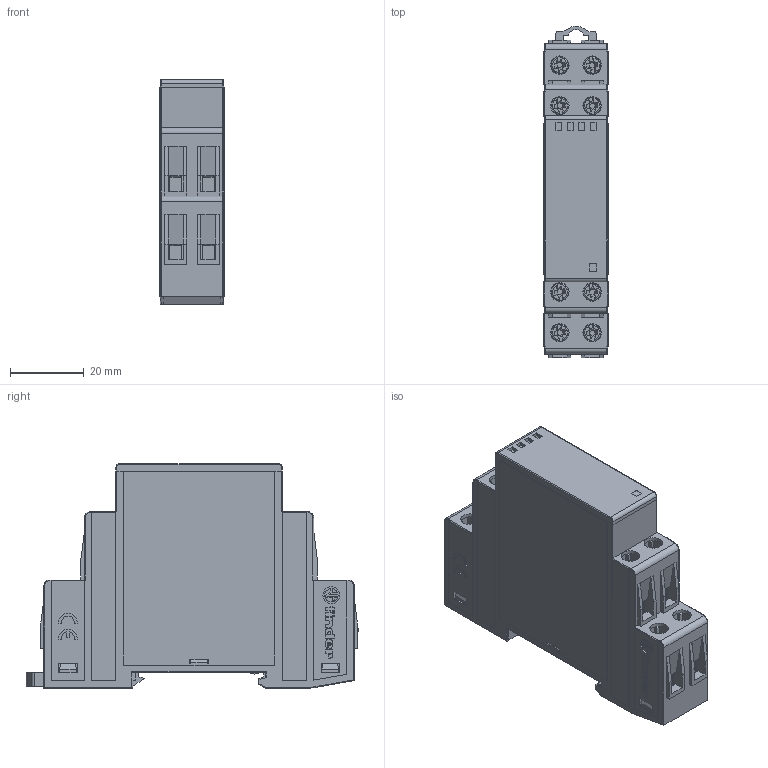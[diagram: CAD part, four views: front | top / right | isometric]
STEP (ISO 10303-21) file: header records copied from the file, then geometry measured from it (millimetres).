
FILE_DESCRIPTION(/* description */ ('Unknown'),/* implementation_level */ '2;1');
FILE_NAME(/* name */ '7S23',/* time_stamp */ '2017-09-19T16:04:08+02:00',/* author */ ('Unknown'),/* organization */ ('Unknown'),/* preprocessor_version */ 'ST-DEVELOPER v16.7',/* originating_system */ 'DEX',/* authorisation */ $);
FILE_SCHEMA (('AUTOMOTIVE_DESIGN {1 0 10303 214 3 1 1}'));
Products named in the file (1): 7S23
Bounding box: 17.5 x 89.85 x 60.8 mm (x, y, z)
Surface area: 21316.9 mm2 (no closed solid volume)
Topology: 0 solids, 71 shells, 1422 faces, 5527 edges, 4040 vertices
Faces by surface type: plane 1206, cylinder 163, bspline 40, torus 12, cone 1
Full cylindrical faces by diameter (mm): 4.566 x2, 5 x8
Entity records: 62955 total; most frequent: CARTESIAN_POINT 12992, ORIENTED_EDGE 8666, DIRECTION 8521, EDGE_CURVE 5503, LINE 4893, VECTOR 4893, VERTEX_POINT 4036, AXIS2_PLACEMENT_3D 1814
